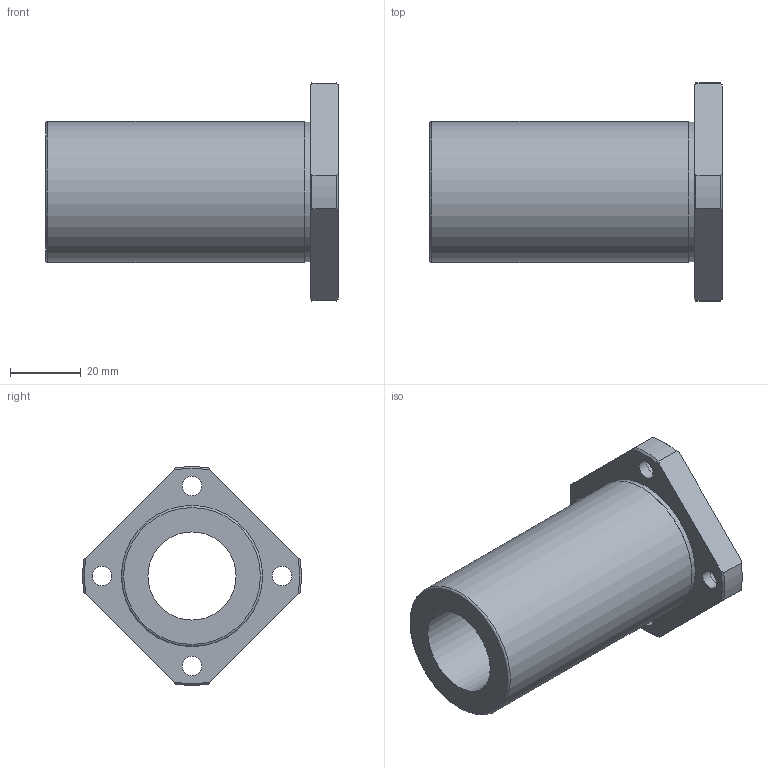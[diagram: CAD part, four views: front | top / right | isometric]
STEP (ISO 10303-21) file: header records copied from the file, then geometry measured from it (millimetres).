
FILE_DESCRIPTION(('STEP AP203'),'1');
FILE_NAME('//192.168.1.1/share/s-4 技術開発/s-4-4_CAD/s-4-4-3_見直し済み/002 修正済み/NFES-VM/NFES-25VM.step','2022-02-04T07:03:42',(' '),(' '),'Spatial InterOp 3D',' ',' ');
FILE_SCHEMA(('CONFIG_CONTROL_DESIGN'));
Length unit declared in the file: millimetre
Products named in the file (1): 1
Bounding box: 83 x 61.92 x 61.92 mm (x, y, z)
Volume: 71223.3 mm3; surface area: 21868.2 mm2
Topology: 1 solids, 1 shells, 36 faces, 91 edges, 63 vertices
Faces by surface type: cylinder 15, plane 12, cone 8, torus 1
Full cylindrical faces by diameter (mm): 5.5 x4, 9 x4, 25 x1, 39.5 x1, 40 x1
Entity records: 1026 total; most frequent: CARTESIAN_POINT 195, DIRECTION 168, ORIENTED_EDGE 142, AXIS2_PLACEMENT_3D 76, EDGE_CURVE 71, EDGE_LOOP 64, VERTEX_POINT 55, FACE_OUTER_BOUND 48
